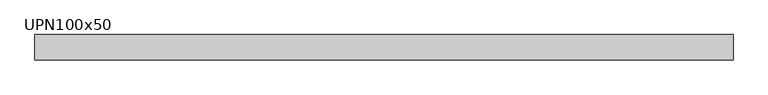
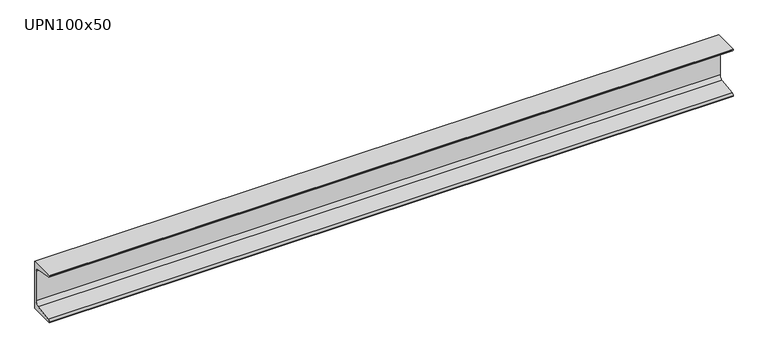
"""IFC4 building model written with IfcOpenShell, lengths in millimetres: beam geometry, M_MC Shapes : UPN100x50."""

from ifc_helpers import new_model, si_unit, point, frame, frame_2d, origin, place, context, project, spatial, polyline, circle_curve, trimmed, segment, composite_curve, outline, extrude, source, transform, mapped, element, save


def upn100x50_5f90f948(model_context):
    return source(origin(), model_context, "Body", "SweptSolid", [
        extrude(outline(composite_curve([segment(polyline([(10.9, 50.0), (10.9, -50.0), (-39.1, -50.0), (-39.1, -49.0253247)]), True, "CONTINUOUS"), segment(trimmed(circle_curve(frame_2d((-35.15, -49.0253247)), 3.95), [point((-39.1, -49.0253247))], [point((-35.7993773, -45.1290689))], False, "CARTESIAN"), True, "CONTINUOUS"), segment(polyline([(-35.7993773, -45.1290689), (-0.2512455, -39.2043685)]), True, "CONTINUOUS"), segment(trimmed(circle_curve(frame_2d((-1.55, -31.4118569)), 7.9), [point((-0.2512455, -39.2043685))], [point((6.35, -31.4118569))], True, "CARTESIAN"), True, "CONTINUOUS"), segment(polyline([(6.35, -31.4118569), (6.35, 31.4118569)]), True, "CONTINUOUS"), segment(trimmed(circle_curve(frame_2d((-1.55, 31.4118569)), 7.9), [point((6.35, 31.4118569))], [point((-0.2512455, 39.2043685))], True, "CARTESIAN"), True, "CONTINUOUS"), segment(polyline([(-0.2512455, 39.2043685), (-35.7993773, 45.1290689)]), True, "CONTINUOUS"), segment(trimmed(circle_curve(frame_2d((-35.15, 49.0253247)), 3.95), [point((-35.7993773, 45.1290689))], [point((-39.1, 49.0253247))], False, "CARTESIAN"), True, "CONTINUOUS"), segment(polyline([(-39.1, 49.0253247), (-39.1, 50.0), (10.9, 50.0)]), True, "CONTINUOUS")], self_intersect=False)), frame((-790.0, 0.0, 0.0), z_axis=(1.0, 0.0, 0.0), x_axis=(0.0, 1.0, 0.0)), (0.0, 0.0, 1.0), 1374.7),
    ])


if __name__ == "__main__":
    model = new_model("IFC4")
    model_context = context("Model", 3, world=origin())
    ifc_project = project(units=[si_unit("LENGTHUNIT", "METRE", prefix="MILLI")], contexts=[model_context])
    site = spatial("IfcSite", under=ifc_project)
    building = spatial("IfcBuilding", under=site)
    placement = place(None, origin())
    upn100x50_shape = upn100x50_5f90f948(model_context)
    element("IfcBeam", 1, ObjectType="M_MC Shapes : UPN100x50", at=placement, inside=building, context=model_context, shape_type="MappedRepresentation", body=[
        mapped(upn100x50_shape, transform((0.0, 0.0, 0.0), x_axis=(1.0, 0.0, 0.0), y_axis=(0.0, 1.0, 0.0), z_axis=(0.0, 0.0, 1.0))),
    ])
    save(model, "model.ifc")
